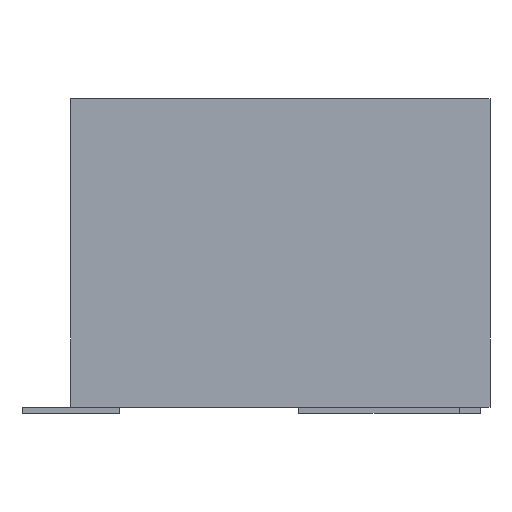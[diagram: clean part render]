
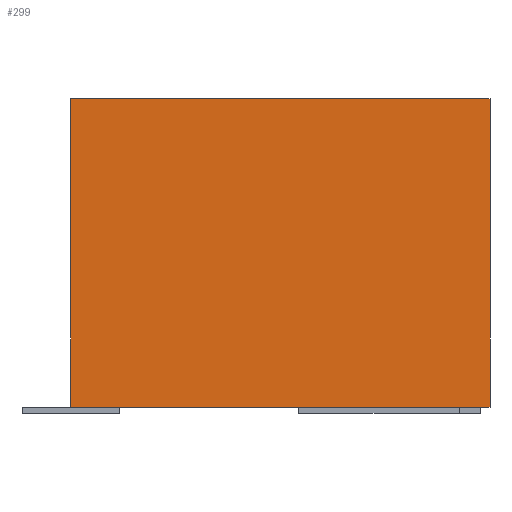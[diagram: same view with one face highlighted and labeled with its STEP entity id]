
A CAD part, left-side view. The second image highlights one B-rep face of the part: STEP entity #299.
In plain terms, the highlighted planar face has unit normal (-1, 0, 0).
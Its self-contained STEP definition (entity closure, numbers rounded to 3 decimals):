
#36 = EDGE_CURVE('',#37,#39,#41,.T.);
#37 = VERTEX_POINT('',#38);
#38 = CARTESIAN_POINT('',(-7.875,-3.4,0.));
#39 = VERTEX_POINT('',#40);
#40 = CARTESIAN_POINT('',(-7.875,-3.4,5.));
#41 = SURFACE_CURVE('',#42,(#46,#58),.PCURVE_S1.);
#42 = LINE('',#43,#44);
#43 = CARTESIAN_POINT('',(-7.875,-3.4,0.));
#44 = VECTOR('',#45,1.);
#45 = DIRECTION('',(0.,0.,1.));
#46 = PCURVE('',#47,#52);
#47 = PLANE('',#48);
#48 = AXIS2_PLACEMENT_3D('',#49,#50,#51);
#49 = CARTESIAN_POINT('',(-7.875,-3.4,0.));
#50 = DIRECTION('',(0.,1.,0.));
#51 = DIRECTION('',(1.,0.,0.));
#52 = DEFINITIONAL_REPRESENTATION('',(#53),#57);
#53 = LINE('',#54,#55);
#54 = CARTESIAN_POINT('',(0.,0.));
#55 = VECTOR('',#56,1.);
#56 = DIRECTION('',(0.,-1.));
#57 = ( GEOMETRIC_REPRESENTATION_CONTEXT(2) 
PARAMETRIC_REPRESENTATION_CONTEXT() REPRESENTATION_CONTEXT('2D SPACE',''
  ) );
#58 = PCURVE('',#59,#64);
#59 = PLANE('',#60);
#60 = AXIS2_PLACEMENT_3D('',#61,#62,#63);
#61 = CARTESIAN_POINT('',(-7.875,3.4,0.));
#62 = DIRECTION('',(1.,0.,-0.));
#63 = DIRECTION('',(0.,-1.,0.));
#64 = DEFINITIONAL_REPRESENTATION('',(#65),#69);
#65 = LINE('',#66,#67);
#66 = CARTESIAN_POINT('',(6.8,0.));
#67 = VECTOR('',#68,1.);
#68 = DIRECTION('',(0.,-1.));
#69 = ( GEOMETRIC_REPRESENTATION_CONTEXT(2) 
PARAMETRIC_REPRESENTATION_CONTEXT() REPRESENTATION_CONTEXT('2D SPACE',''
  ) );
#87 = PLANE('',#88);
#88 = AXIS2_PLACEMENT_3D('',#89,#90,#91);
#89 = CARTESIAN_POINT('',(0.,0.,5.));
#90 = DIRECTION('',(0.,0.,1.));
#91 = DIRECTION('',(1.,0.,0.));
#141 = PLANE('',#142);
#142 = AXIS2_PLACEMENT_3D('',#143,#144,#145);
#143 = CARTESIAN_POINT('',(0.,0.,0.));
#144 = DIRECTION('',(0.,0.,1.));
#145 = DIRECTION('',(1.,0.,0.));
#196 = PLANE('',#197);
#197 = AXIS2_PLACEMENT_3D('',#198,#199,#200);
#198 = CARTESIAN_POINT('',(7.875,3.4,0.));
#199 = DIRECTION('',(0.,-1.,0.));
#200 = DIRECTION('',(-1.,0.,0.));
#234 = VERTEX_POINT('',#235);
#235 = CARTESIAN_POINT('',(-7.875,3.4,5.));
#256 = EDGE_CURVE('',#257,#234,#259,.T.);
#257 = VERTEX_POINT('',#258);
#258 = CARTESIAN_POINT('',(-7.875,3.4,0.));
#259 = SURFACE_CURVE('',#260,(#264,#271),.PCURVE_S1.);
#260 = LINE('',#261,#262);
#261 = CARTESIAN_POINT('',(-7.875,3.4,0.));
#262 = VECTOR('',#263,1.);
#263 = DIRECTION('',(0.,0.,1.));
#264 = PCURVE('',#196,#265);
#265 = DEFINITIONAL_REPRESENTATION('',(#266),#270);
#266 = LINE('',#267,#268);
#267 = CARTESIAN_POINT('',(15.75,0.));
#268 = VECTOR('',#269,1.);
#269 = DIRECTION('',(0.,-1.));
#270 = ( GEOMETRIC_REPRESENTATION_CONTEXT(2) 
PARAMETRIC_REPRESENTATION_CONTEXT() REPRESENTATION_CONTEXT('2D SPACE',''
  ) );
#271 = PCURVE('',#59,#272);
#272 = DEFINITIONAL_REPRESENTATION('',(#273),#277);
#273 = LINE('',#274,#275);
#274 = CARTESIAN_POINT('',(0.,0.));
#275 = VECTOR('',#276,1.);
#276 = DIRECTION('',(0.,-1.));
#277 = ( GEOMETRIC_REPRESENTATION_CONTEXT(2) 
PARAMETRIC_REPRESENTATION_CONTEXT() REPRESENTATION_CONTEXT('2D SPACE',''
  ) );
#299 = ADVANCED_FACE('',(#300),#59,.F.);
#300 = FACE_BOUND('',#301,.F.);
#301 = EDGE_LOOP('',(#302,#303,#324,#325));
#302 = ORIENTED_EDGE('',*,*,#256,.T.);
#303 = ORIENTED_EDGE('',*,*,#304,.T.);
#304 = EDGE_CURVE('',#234,#39,#305,.T.);
#305 = SURFACE_CURVE('',#306,(#310,#317),.PCURVE_S1.);
#306 = LINE('',#307,#308);
#307 = CARTESIAN_POINT('',(-7.875,3.4,5.));
#308 = VECTOR('',#309,1.);
#309 = DIRECTION('',(0.,-1.,0.));
#310 = PCURVE('',#59,#311);
#311 = DEFINITIONAL_REPRESENTATION('',(#312),#316);
#312 = LINE('',#313,#314);
#313 = CARTESIAN_POINT('',(0.,-5.));
#314 = VECTOR('',#315,1.);
#315 = DIRECTION('',(1.,0.));
#316 = ( GEOMETRIC_REPRESENTATION_CONTEXT(2) 
PARAMETRIC_REPRESENTATION_CONTEXT() REPRESENTATION_CONTEXT('2D SPACE',''
  ) );
#317 = PCURVE('',#87,#318);
#318 = DEFINITIONAL_REPRESENTATION('',(#319),#323);
#319 = LINE('',#320,#321);
#320 = CARTESIAN_POINT('',(-7.875,3.4));
#321 = VECTOR('',#322,1.);
#322 = DIRECTION('',(0.,-1.));
#323 = ( GEOMETRIC_REPRESENTATION_CONTEXT(2) 
PARAMETRIC_REPRESENTATION_CONTEXT() REPRESENTATION_CONTEXT('2D SPACE',''
  ) );
#324 = ORIENTED_EDGE('',*,*,#36,.F.);
#325 = ORIENTED_EDGE('',*,*,#326,.F.);
#326 = EDGE_CURVE('',#257,#37,#327,.T.);
#327 = SURFACE_CURVE('',#328,(#332,#339),.PCURVE_S1.);
#328 = LINE('',#329,#330);
#329 = CARTESIAN_POINT('',(-7.875,3.4,0.));
#330 = VECTOR('',#331,1.);
#331 = DIRECTION('',(0.,-1.,0.));
#332 = PCURVE('',#59,#333);
#333 = DEFINITIONAL_REPRESENTATION('',(#334),#338);
#334 = LINE('',#335,#336);
#335 = CARTESIAN_POINT('',(0.,0.));
#336 = VECTOR('',#337,1.);
#337 = DIRECTION('',(1.,0.));
#338 = ( GEOMETRIC_REPRESENTATION_CONTEXT(2) 
PARAMETRIC_REPRESENTATION_CONTEXT() REPRESENTATION_CONTEXT('2D SPACE',''
  ) );
#339 = PCURVE('',#141,#340);
#340 = DEFINITIONAL_REPRESENTATION('',(#341),#345);
#341 = LINE('',#342,#343);
#342 = CARTESIAN_POINT('',(-7.875,3.4));
#343 = VECTOR('',#344,1.);
#344 = DIRECTION('',(0.,-1.));
#345 = ( GEOMETRIC_REPRESENTATION_CONTEXT(2) 
PARAMETRIC_REPRESENTATION_CONTEXT() REPRESENTATION_CONTEXT('2D SPACE',''
  ) );
